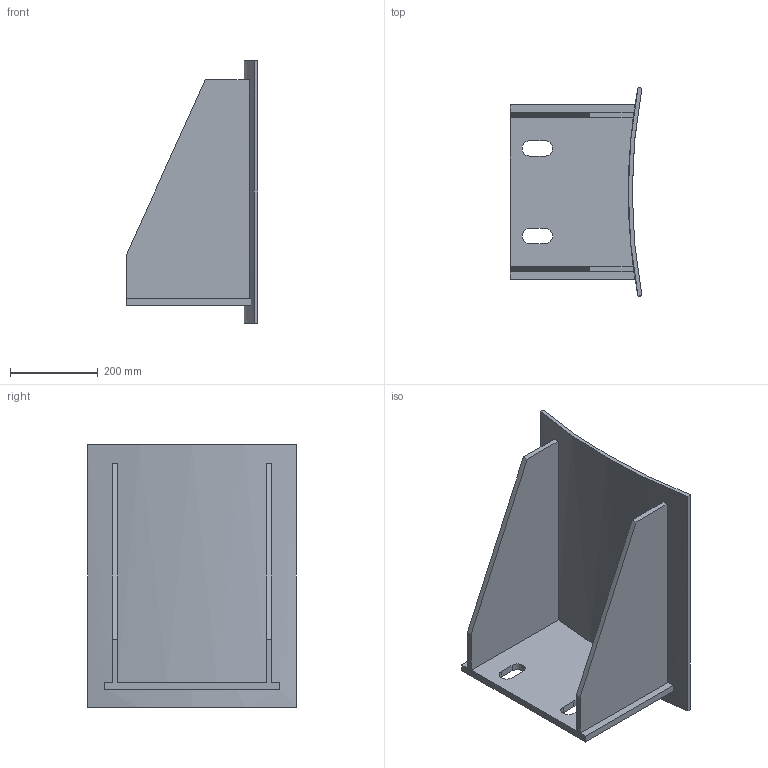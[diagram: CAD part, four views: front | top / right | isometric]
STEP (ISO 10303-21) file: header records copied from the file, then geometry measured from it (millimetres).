
FILE_DESCRIPTION(/* description */ (''),/* implementation_level */ '2;1');
FILE_NAME(/* name */ 'C:\Users\D\Documents\Inventor\HP\JPI\竪型容器用ラグサポート\軽荷重用ラグサポート Light-duty lug support\ld-lug-support-d2540.stp',/* time_stamp */ '2026-02-05T16:55:14+09:00',/* author */ ('D'),/* organization */ (''),/* preprocessor_version */ 'ST-DEVELOPER v18',/* originating_system */ 'Autodesk Inventor 2020',/* authorisation */ '');
FILE_SCHEMA (('AUTOMOTIVE_DESIGN { 1 0 10303 214 3 1 1 }'));
Length unit declared in the file: millimetre
Products named in the file (1): light-duty lug support
Bounding box: 301.14 x 477.23 x 600 mm (x, y, z)
Volume: 6779334.9 mm3; surface area: 1257788.5 mm2
Topology: 1 solids, 1 shells, 31 faces, 80 edges, 52 vertices
Faces by surface type: plane 25, cylinder 6
Entity records: 1001 total; most frequent: CARTESIAN_POINT 166, ORIENTED_EDGE 164, DIRECTION 162, EDGE_CURVE 82, LINE 66, VECTOR 66, VERTEX_POINT 52, AXIS2_PLACEMENT_3D 48
